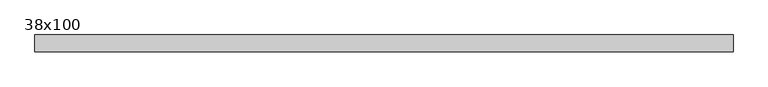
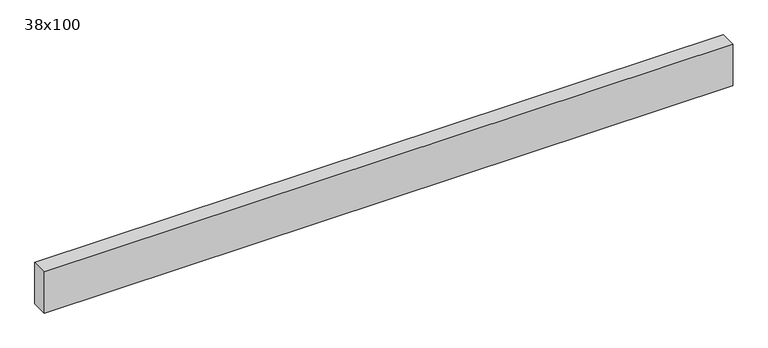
"""IFC4 building model written with IfcOpenShell, lengths in millimetres: beam geometry, Poutre - Bois de construction de dimensions courantes : 38x100."""

from ifc_helpers import new_model, si_unit, frame, origin, place, context, project, spatial, polyline, outline, extrude, source, transform, mapped, element, save


def beam_38x100_f817591d(model_context):
    return source(origin(), model_context, "Body", "SweptSolid", [
        extrude(outline(polyline([(712.0, 19.05), (712.0, -19.05), (-872.0, -19.05), (-872.0, 19.05), (712.0, 19.05)])), frame((0.0, 0.0, -50.0), z_axis=(0.0, 0.0, 1.0), x_axis=(1.0, 0.0, 0.0)), (0.0, 0.0, 1.0), 100.0),
    ])


if __name__ == "__main__":
    model = new_model("IFC4")
    model_context = context("Model", 3, world=origin())
    ifc_project = project(units=[si_unit("LENGTHUNIT", "METRE", prefix="MILLI")], contexts=[model_context])
    site = spatial("IfcSite", under=ifc_project)
    building = spatial("IfcBuilding", under=site)
    placement = place(None, origin())
    beam_38x100_shape = beam_38x100_f817591d(model_context)
    element("IfcBeam", 1, ObjectType="Poutre - Bois de construction de dimensions courantes : 38x100", at=placement, inside=building, context=model_context, shape_type="MappedRepresentation", body=[
        mapped(beam_38x100_shape, transform((0.0, 0.0, 0.0), x_axis=(1.0, 0.0, 0.0), y_axis=(0.0, 1.0, 0.0), z_axis=(0.0, 0.0, 1.0))),
    ])
    save(model, "model.ifc")
